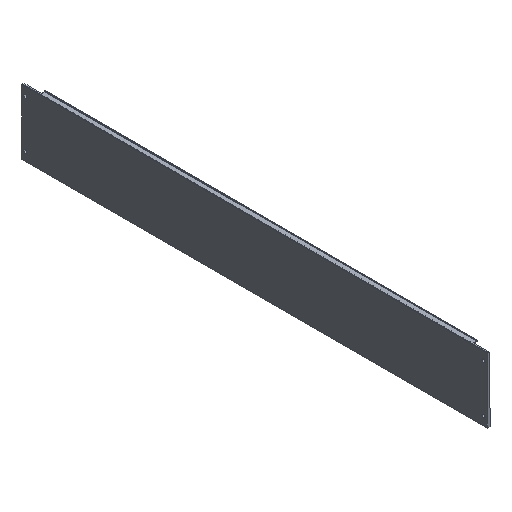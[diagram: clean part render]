
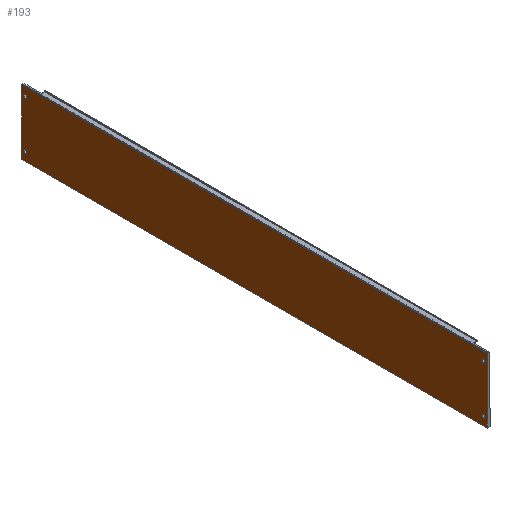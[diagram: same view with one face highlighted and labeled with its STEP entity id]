
A CAD part, isometric view. The second image highlights one B-rep face of the part: STEP entity #193.
In plain terms, the highlighted planar face has unit normal (-1, 0, 0).
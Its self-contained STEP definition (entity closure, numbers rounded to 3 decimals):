
#147=FACE_BOUND('',#252,.T.);
#148=FACE_BOUND('',#253,.T.);
#149=FACE_BOUND('',#254,.T.);
#150=FACE_BOUND('',#255,.T.);
#151=FACE_BOUND('',#256,.T.);
#172=PLANE('',#709);
#193=ADVANCED_FACE('',(#147,#148,#149,#150,#151),#172,.T.);
#252=EDGE_LOOP('',(#353));
#253=EDGE_LOOP('',(#354));
#254=EDGE_LOOP('',(#355));
#255=EDGE_LOOP('',(#356));
#256=EDGE_LOOP('',(#357,#358,#359,#360));
#291=CIRCLE('',#705,1.35);
#292=CIRCLE('',#706,1.35);
#293=CIRCLE('',#707,1.35);
#294=CIRCLE('',#708,1.35);
#353=ORIENTED_EDGE('',*,*,#537,.F.);
#354=ORIENTED_EDGE('',*,*,#538,.F.);
#355=ORIENTED_EDGE('',*,*,#539,.F.);
#356=ORIENTED_EDGE('',*,*,#540,.F.);
#357=ORIENTED_EDGE('',*,*,#511,.T.);
#358=ORIENTED_EDGE('',*,*,#530,.T.);
#359=ORIENTED_EDGE('',*,*,#541,.T.);
#360=ORIENTED_EDGE('',*,*,#523,.T.);
#456=VERTEX_POINT('',#902);
#458=VERTEX_POINT('',#906);
#465=VERTEX_POINT('',#931);
#471=VERTEX_POINT('',#945);
#477=VERTEX_POINT('',#959);
#478=VERTEX_POINT('',#961);
#479=VERTEX_POINT('',#963);
#480=VERTEX_POINT('',#965);
#511=EDGE_CURVE('',#456,#458,#581,.T.);
#523=EDGE_CURVE('',#465,#456,#593,.T.);
#530=EDGE_CURVE('',#458,#471,#598,.T.);
#537=EDGE_CURVE('',#477,#477,#291,.T.);
#538=EDGE_CURVE('',#478,#478,#292,.T.);
#539=EDGE_CURVE('',#479,#479,#293,.T.);
#540=EDGE_CURVE('',#480,#480,#294,.T.);
#541=EDGE_CURVE('',#471,#465,#603,.T.);
#581=LINE('',#907,#637);
#593=LINE('',#930,#649);
#598=LINE('',#944,#654);
#603=LINE('',#966,#659);
#637=VECTOR('',#754,1.);
#649=VECTOR('',#776,1.);
#654=VECTOR('',#787,1.);
#659=VECTOR('',#806,1.);
#705=AXIS2_PLACEMENT_3D('',#958,#798,#799);
#706=AXIS2_PLACEMENT_3D('',#960,#800,#801);
#707=AXIS2_PLACEMENT_3D('',#962,#802,#803);
#708=AXIS2_PLACEMENT_3D('',#964,#804,#805);
#709=AXIS2_PLACEMENT_3D('',#967,#807,#808);
#754=DIRECTION('',(0.,-1.,0.));
#776=DIRECTION('',(0.,0.,-1.));
#787=DIRECTION('',(0.,0.,1.));
#798=DIRECTION('',(-1.,0.,0.));
#799=DIRECTION('',(0.,0.,1.));
#800=DIRECTION('',(-1.,0.,0.));
#801=DIRECTION('',(0.,0.,1.));
#802=DIRECTION('',(-1.,0.,0.));
#803=DIRECTION('',(0.,0.,1.));
#804=DIRECTION('',(-1.,0.,0.));
#805=DIRECTION('',(0.,0.,1.));
#806=DIRECTION('',(0.,1.,0.));
#807=DIRECTION('',(-1.,0.,0.));
#808=DIRECTION('',(0.,0.,1.));
#902=CARTESIAN_POINT('',(-5.,380.85,-6.53));
#906=CARTESIAN_POINT('',(-5.,-14.25,-6.53));
#907=CARTESIAN_POINT('',(-5.,-14.25,-6.53));
#930=CARTESIAN_POINT('',(-5.,380.85,48.2));
#931=CARTESIAN_POINT('',(-5.,380.85,48.61));
#944=CARTESIAN_POINT('',(-5.,-14.25,-6.12));
#945=CARTESIAN_POINT('',(-5.,-14.25,48.61));
#958=CARTESIAN_POINT('',(-5.,377.975,41.36));
#959=CARTESIAN_POINT('',(-5.,377.975,42.71));
#960=CARTESIAN_POINT('',(-5.,-11.225,41.36));
#961=CARTESIAN_POINT('',(-5.,-11.225,42.71));
#962=CARTESIAN_POINT('',(-5.,-11.225,0.72));
#963=CARTESIAN_POINT('',(-5.,-11.225,2.07));
#964=CARTESIAN_POINT('',(-5.,377.975,0.72));
#965=CARTESIAN_POINT('',(-5.,377.975,2.07));
#966=CARTESIAN_POINT('',(-5.,380.85,48.61));
#967=CARTESIAN_POINT('',(-5.,0.,0.));
